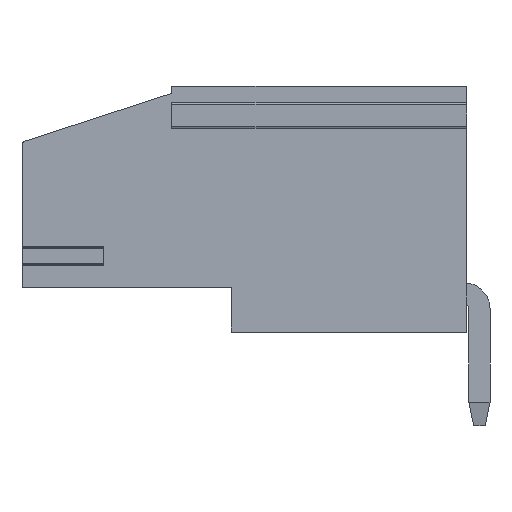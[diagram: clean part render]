
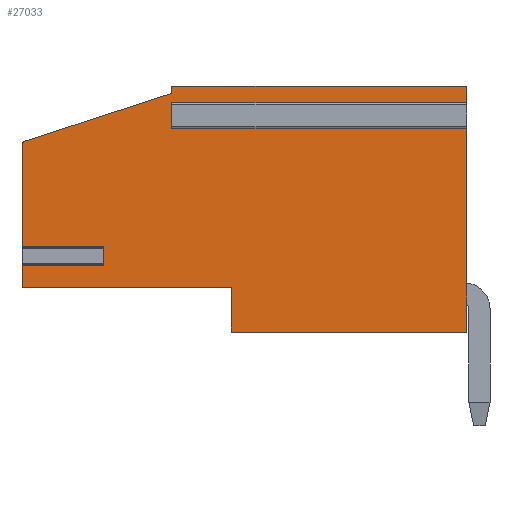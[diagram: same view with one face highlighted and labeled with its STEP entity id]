
A CAD part, left-side view. The second image highlights one B-rep face of the part: STEP entity #27033.
In plain terms, the highlighted planar face has unit normal (-1, 0, 0).
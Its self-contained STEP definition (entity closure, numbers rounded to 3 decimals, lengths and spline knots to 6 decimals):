
#1=CARTESIAN_POINT('',(0.0006,0.0188,-0.002525));
#2=DIRECTION('',(-1.,0.,0.));
#3=DIRECTION('',(0.,0.309,0.951));
#4=AXIS2_PLACEMENT_3D('',#1,#2,#3);
#6=DIRECTION('',(0.,0.951,-0.309));
#7=VECTOR('',#6,0.006584);
#8=CARTESIAN_POINT('',(0.0006,0.0126,-0.0003));
#9=LINE('',#8,#7);
#10=DIRECTION('',(0.,-1.,0.));
#11=VECTOR('',#10,0.0035);
#12=CARTESIAN_POINT('',(0.0006,0.019,-0.00764));
#13=LINE('',#12,#11);
#23=DIRECTION('',(0.,0.,1.));
#24=VECTOR('',#23,0.00078);
#25=CARTESIAN_POINT('',(0.0006,0.0155,-0.00764));
#26=LINE('',#25,#24);
#50=DIRECTION('',(0.,1.,0.));
#51=VECTOR('',#50,0.0035);
#52=CARTESIAN_POINT('',(0.0006,0.0155,-0.00686));
#53=LINE('',#52,#51);
#98=DIRECTION('',(0.,0.,1.));
#99=VECTOR('',#98,0.004335);
#100=CARTESIAN_POINT('',(0.0006,0.019,-0.00686));
#101=LINE('',#100,#99);
#130=DIRECTION('',(0.,0.,1.));
#131=VECTOR('',#130,0.00096);
#132=CARTESIAN_POINT('',(0.0006,0.019,-0.0086));
#133=LINE('',#132,#131);
#309=DIRECTION('',(0.,1.,0.));
#310=VECTOR('',#309,0.00895);
#311=CARTESIAN_POINT('',(0.0006,0.01005,-0.0086));
#312=LINE('',#311,#310);
#1686=DIRECTION('',(0.,1.,0.));
#1687=VECTOR('',#1686,0.01005);
#1688=CARTESIAN_POINT('',(0.0006,0.,-0.0105));
#1689=LINE('',#1688,#1687);
#1718=DIRECTION('',(0.,0.,-1.));
#1719=VECTOR('',#1718,0.008901);
#1720=CARTESIAN_POINT('',(0.0006,0.,-0.001599));
#1721=LINE('',#1720,#1719);
#1750=DIRECTION('',(0.,0.,-1.));
#1751=VECTOR('',#1750,0.000901);
#1752=CARTESIAN_POINT('',(0.0006,0.,0.));
#1753=LINE('',#1752,#1751);
#5929=DIRECTION('',(0.,-1.,0.));
#5930=VECTOR('',#5929,0.0126);
#5931=CARTESIAN_POINT('',(0.0006,0.0126,0.));
#5932=LINE('',#5931,#5930);
#5941=DIRECTION('',(0.,0.,1.));
#5942=VECTOR('',#5941,0.0003);
#5943=CARTESIAN_POINT('',(0.0006,0.0126,-0.0003));
#5944=LINE('',#5943,#5942);
#14174=DIRECTION('',(0.,0.,1.));
#14175=VECTOR('',#14174,0.0019);
#14176=CARTESIAN_POINT('',(0.0006,0.01005,-0.0105));
#14177=LINE('',#14176,#14175);
#23066=DIRECTION('',(0.,-1.,0.));
#23067=VECTOR('',#23066,0.0126);
#23068=CARTESIAN_POINT('',(0.0006,0.0126,-0.001599));
#23069=LINE('',#23068,#23067);
#23094=DIRECTION('',(0.,1.,0.));
#23095=VECTOR('',#23094,0.0126);
#23096=CARTESIAN_POINT('',(0.0006,0.,-0.000901));
#23097=LINE('',#23096,#23095);
#23107=DIRECTION('',(0.,0.,-1.));
#23108=VECTOR('',#23107,0.000698);
#23109=CARTESIAN_POINT('',(0.0006,0.0126,-0.000901));
#23110=LINE('',#23109,#23108);
#23686=CARTESIAN_POINT('',(0.0006,0.0155,-0.00764));
#23687=CARTESIAN_POINT('',(0.0006,0.0155,-0.00686));
#23688=VERTEX_POINT('',#23686);
#23689=VERTEX_POINT('',#23687);
#23690=CARTESIAN_POINT('',(0.0006,0.019,-0.00686));
#23691=VERTEX_POINT('',#23690);
#23692=CARTESIAN_POINT('',(0.0006,0.019,-0.002525));
#23693=VERTEX_POINT('',#23692);
#23694=CARTESIAN_POINT('',(0.0006,0.018862,-0.002335));
#23695=VERTEX_POINT('',#23694);
#23696=CARTESIAN_POINT('',(0.0006,0.0126,-0.0003));
#23697=VERTEX_POINT('',#23696);
#23698=CARTESIAN_POINT('',(0.0006,0.0126,0.));
#23699=VERTEX_POINT('',#23698);
#23700=CARTESIAN_POINT('',(0.0006,0.,0.));
#23701=VERTEX_POINT('',#23700);
#23702=CARTESIAN_POINT('',(0.0006,0.,-0.000901));
#23703=VERTEX_POINT('',#23702);
#23704=CARTESIAN_POINT('',(0.0006,0.0126,-0.000901));
#23705=VERTEX_POINT('',#23704);
#23706=CARTESIAN_POINT('',(0.0006,0.0126,-0.001599));
#23707=VERTEX_POINT('',#23706);
#23708=CARTESIAN_POINT('',(0.0006,0.,-0.001599));
#23709=VERTEX_POINT('',#23708);
#23710=CARTESIAN_POINT('',(0.0006,0.,-0.0105));
#23711=VERTEX_POINT('',#23710);
#23712=CARTESIAN_POINT('',(0.0006,0.01005,-0.0105));
#23713=VERTEX_POINT('',#23712);
#23714=CARTESIAN_POINT('',(0.0006,0.01005,-0.0086));
#23715=VERTEX_POINT('',#23714);
#23716=CARTESIAN_POINT('',(0.0006,0.019,-0.0086));
#23717=VERTEX_POINT('',#23716);
#23718=CARTESIAN_POINT('',(0.0006,0.019,-0.00764));
#23719=VERTEX_POINT('',#23718);
#26992=CARTESIAN_POINT('',(0.0006,0.01,-0.00525));
#26993=DIRECTION('',(1.,0.,0.));
#26994=DIRECTION('',(0.,0.,-1.));
#26995=AXIS2_PLACEMENT_3D('',#26992,#26993,#26994);
#26996=PLANE('',#26995);
#26998=ORIENTED_EDGE('',*,*,#26997,.T.);
#27000=ORIENTED_EDGE('',*,*,#26999,.T.);
#27002=ORIENTED_EDGE('',*,*,#27001,.T.);
#27004=ORIENTED_EDGE('',*,*,#27003,.T.);
#27006=ORIENTED_EDGE('',*,*,#27005,.F.);
#27008=ORIENTED_EDGE('',*,*,#27007,.F.);
#27010=ORIENTED_EDGE('',*,*,#27009,.T.);
#27012=ORIENTED_EDGE('',*,*,#27011,.T.);
#27014=ORIENTED_EDGE('',*,*,#27013,.T.);
#27016=ORIENTED_EDGE('',*,*,#27015,.T.);
#27018=ORIENTED_EDGE('',*,*,#27017,.T.);
#27020=ORIENTED_EDGE('',*,*,#27019,.T.);
#27022=ORIENTED_EDGE('',*,*,#27021,.T.);
#27024=ORIENTED_EDGE('',*,*,#27023,.T.);
#27026=ORIENTED_EDGE('',*,*,#27025,.T.);
#27028=ORIENTED_EDGE('',*,*,#27027,.T.);
#27030=ORIENTED_EDGE('',*,*,#27029,.T.);
#27031=EDGE_LOOP('',(#26998,#27000,#27002,#27004,#27006,#27008,#27010,#27012,
#27014,#27016,#27018,#27020,#27022,#27024,#27026,#27028,#27030));
#27032=FACE_OUTER_BOUND('',#27031,.F.);
#27033=ADVANCED_FACE('',(#27032),#26996,.F.);
#5=CIRCLE('',#4,0.0002);
#26997=EDGE_CURVE('',#23719,#23688,#13,.T.);
#26999=EDGE_CURVE('',#23688,#23689,#26,.T.);
#27001=EDGE_CURVE('',#23689,#23691,#53,.T.);
#27003=EDGE_CURVE('',#23691,#23693,#101,.T.);
#27005=EDGE_CURVE('',#23695,#23693,#5,.T.);
#27007=EDGE_CURVE('',#23697,#23695,#9,.T.);
#27009=EDGE_CURVE('',#23697,#23699,#5944,.T.);
#27011=EDGE_CURVE('',#23699,#23701,#5932,.T.);
#27013=EDGE_CURVE('',#23701,#23703,#1753,.T.);
#27015=EDGE_CURVE('',#23703,#23705,#23097,.T.);
#27017=EDGE_CURVE('',#23705,#23707,#23110,.T.);
#27019=EDGE_CURVE('',#23707,#23709,#23069,.T.);
#27021=EDGE_CURVE('',#23709,#23711,#1721,.T.);
#27023=EDGE_CURVE('',#23711,#23713,#1689,.T.);
#27025=EDGE_CURVE('',#23713,#23715,#14177,.T.);
#27027=EDGE_CURVE('',#23715,#23717,#312,.T.);
#27029=EDGE_CURVE('',#23717,#23719,#133,.T.);
